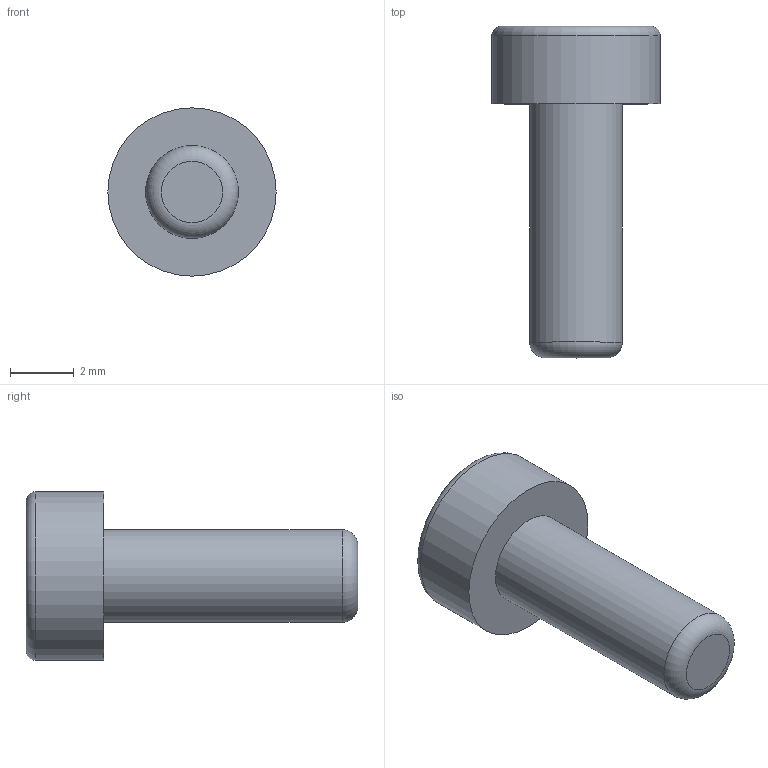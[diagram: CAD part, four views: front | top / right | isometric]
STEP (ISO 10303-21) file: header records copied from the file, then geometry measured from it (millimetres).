
FILE_DESCRIPTION(/* description */ (''),/* implementation_level */ '2;1');
FILE_NAME(/* name */ 'C:/Users/priba/Documents/Temp/mrm-bolt8m3nyl.step',/* time_stamp */ '2020-04-27T09:18:24+02:00',/* author */ (''),/* organization */ (''),/* preprocessor_version */ 'ST-DEVELOPER v18.1',/* originating_system */ 'Autodesk Translation Framework v9.2.0.1227',/* authorisation */ '');
FILE_SCHEMA (('AUTOMOTIVE_DESIGN { 1 0 10303 214 3 1 1 }'));
Length unit declared in the file: millimetre
Products named in the file (1): mrm-bolt8m3nyl
Bounding box: 5.3 x 10.45 x 5.3 mm (x, y, z)
Volume: 102.1 mm3; surface area: 166.2 mm2
Topology: 1 solids, 1 shells, 20 faces, 52 edges, 36 vertices
Faces by surface type: plane 16, torus 2, cylinder 2
Full cylindrical faces by diameter (mm): 2.927 x1, 5.3 x1
Entity records: 655 total; most frequent: CARTESIAN_POINT 109, DIRECTION 108, ORIENTED_EDGE 104, EDGE_CURVE 52, LINE 38, VECTOR 38, VERTEX_POINT 36, AXIS2_PLACEMENT_3D 35
